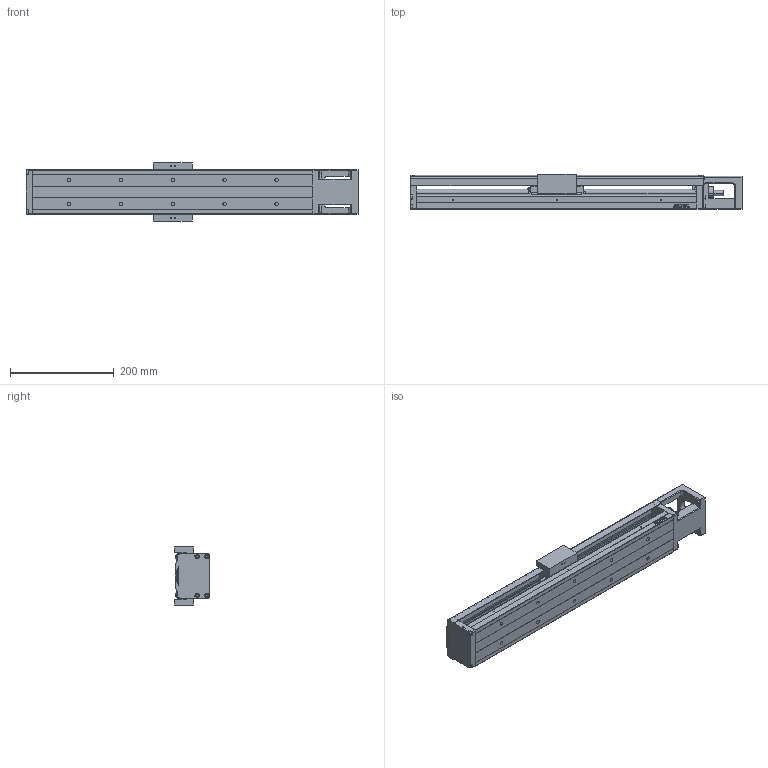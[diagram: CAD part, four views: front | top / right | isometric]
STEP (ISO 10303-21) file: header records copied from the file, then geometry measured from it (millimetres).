
FILE_DESCRIPTION (( 'STEP AP203' ), '1' );
FILE_NAME ('HKK86D20C-440A1-F0C.stp', '2021-11-26T07:56:17', ( '' ), ( '' ), 'SwSTEP 2.0', 'SolidWorks 2018', '' );
FILE_SCHEMA (( 'CONFIG_CONTROL_DESIGN' ));
Length unit declared in the file: millimetre
Products named in the file (1): HKK86D20C-440A1-F0C
Bounding box: 640 x 68 x 112 mm (x, y, z)
Volume: 1623146.9 mm3; surface area: 418686 mm2
Topology: 2 solids, 11 shells, 1121 faces, 3009 edges, 1934 vertices
Faces by surface type: plane 605, cylinder 277, bspline 148, cone 74, sphere 9, torus 8
Entity records: 38441 total; most frequent: CARTESIAN_POINT 11205, ORIENTED_EDGE 5894, DIRECTION 5147, EDGE_CURVE 2947, LINE 1973, VECTOR 1973, VERTEX_POINT 1930, AXIS2_PLACEMENT_3D 1587
